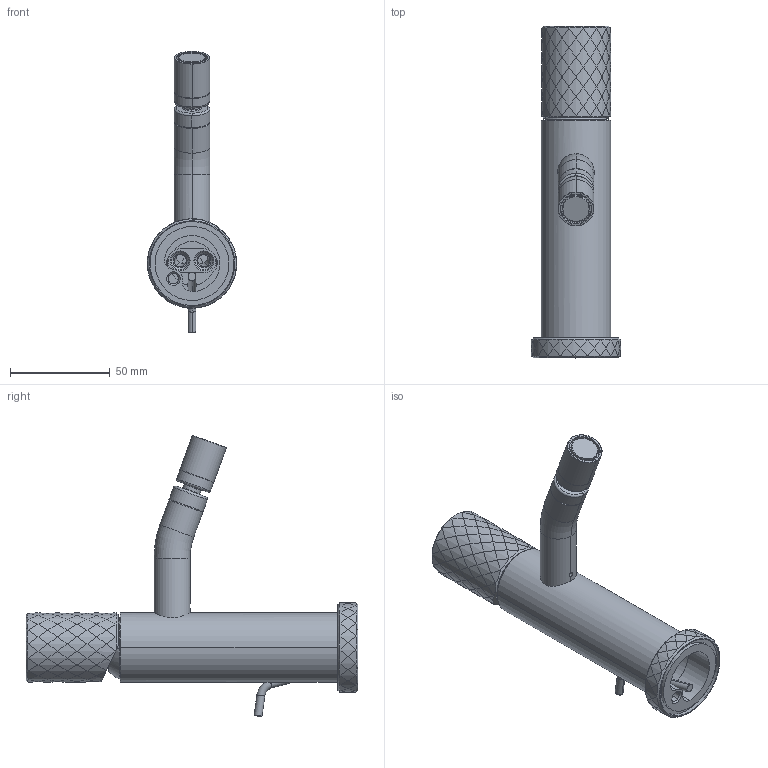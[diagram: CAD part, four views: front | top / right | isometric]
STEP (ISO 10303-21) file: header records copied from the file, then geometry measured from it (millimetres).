
FILE_DESCRIPTION((''),'2;1');
FILE_NAME('F3032XSX_FILE_3D','2019-02-12T',('ivanv'),(''),'CREO PARAMETRIC BY PTC INC, 2016260','CREO PARAMETRIC BY PTC INC, 2016260','');
FILE_SCHEMA(('CONFIG_CONTROL_DESIGN'));
Products named in the file (1): F3032XSX_FILE_3D
Bounding box: 44.72 x 166 x 140.59 mm (x, y, z)
Volume: 77837.5 mm3; surface area: 55741.3 mm2
Topology: 4 solids, 4 shells, 799 faces, 2162 edges, 1372 vertices
Faces by surface type: cylinder 526, cone 85, torus 70, plane 65, bspline 47, sphere 6
Entity records: 47982 total; most frequent: CARTESIAN_POINT 30326, ORIENTED_EDGE 4296, DIRECTION 2809, EDGE_CURVE 2148, VERTEX_POINT 1372, B_SPLINE_CURVE_WITH_KNOTS 1339, AXIS2_PLACEMENT_3D 1248, EDGE_LOOP 842
